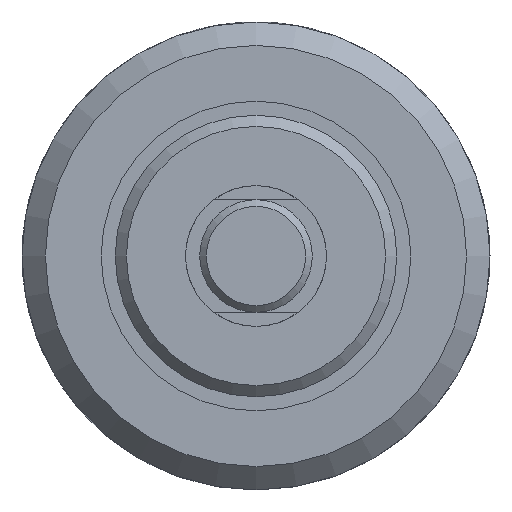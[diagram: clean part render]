
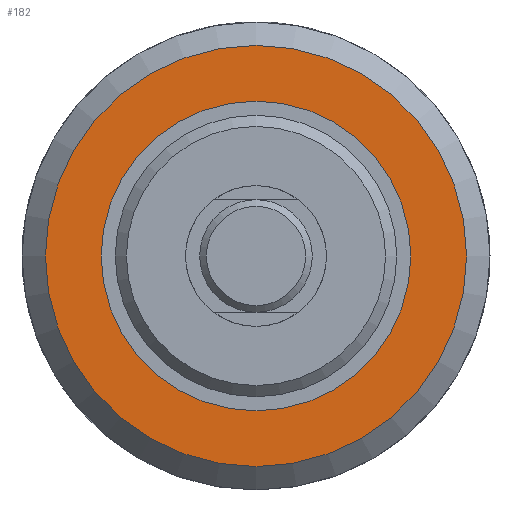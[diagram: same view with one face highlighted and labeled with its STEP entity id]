
A CAD part, left-side view. The second image highlights one B-rep face of the part: STEP entity #182.
In plain terms, the highlighted planar face has unit normal (-1, 0, 0).
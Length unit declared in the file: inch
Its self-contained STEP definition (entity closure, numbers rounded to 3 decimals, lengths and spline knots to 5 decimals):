
#182 = ADVANCED_FACE( '', ( #374, #375 ), #376, .F. );
#374 = FACE_OUTER_BOUND( '', #568, .T. );
#375 = FACE_BOUND( '', #569, .T. );
#376 = PLANE( '', #570 );
#568 = EDGE_LOOP( '', ( #853 ) );
#569 = EDGE_LOOP( '', ( #854 ) );
#570 = AXIS2_PLACEMENT_3D( '', #855, #856, #857 );
#853 = ORIENTED_EDGE( '', *, *, #1006, .F. );
#854 = ORIENTED_EDGE( '', *, *, #1020, .T. );
#855 = CARTESIAN_POINT( '', ( 0.813, 0.6875, 0. ) );
#856 = DIRECTION( '', ( 1., 0., 0. ) );
#857 = DIRECTION( '', ( 0., 0., -1. ) );
#1006 = EDGE_CURVE( '', #1159, #1159, #1160, .T. );
#1020 = EDGE_CURVE( '', #1178, #1178, #1179, .T. );
#1159 = VERTEX_POINT( '', #1442 );
#1160 = CIRCLE( '', #1443, 0.9351 );
#1178 = VERTEX_POINT( '', #1462 );
#1179 = CIRCLE( '', #1463, 0.6875 );
#1442 = CARTESIAN_POINT( '', ( 0.813, 0., -0.9351 ) );
#1443 = AXIS2_PLACEMENT_3D( '', #1593, #1594, #1595 );
#1462 = CARTESIAN_POINT( '', ( 0.813, 0., -0.6875 ) );
#1463 = AXIS2_PLACEMENT_3D( '', #1612, #1613, #1614 );
#1593 = CARTESIAN_POINT( '', ( 0.813, 0., 0. ) );
#1594 = DIRECTION( '', ( 1., 0., 0. ) );
#1595 = DIRECTION( '', ( 0., 0., -1. ) );
#1612 = CARTESIAN_POINT( '', ( 0.813, 0., 0. ) );
#1613 = DIRECTION( '', ( 1., 0., 0. ) );
#1614 = DIRECTION( '', ( 0., 0., -1. ) );
